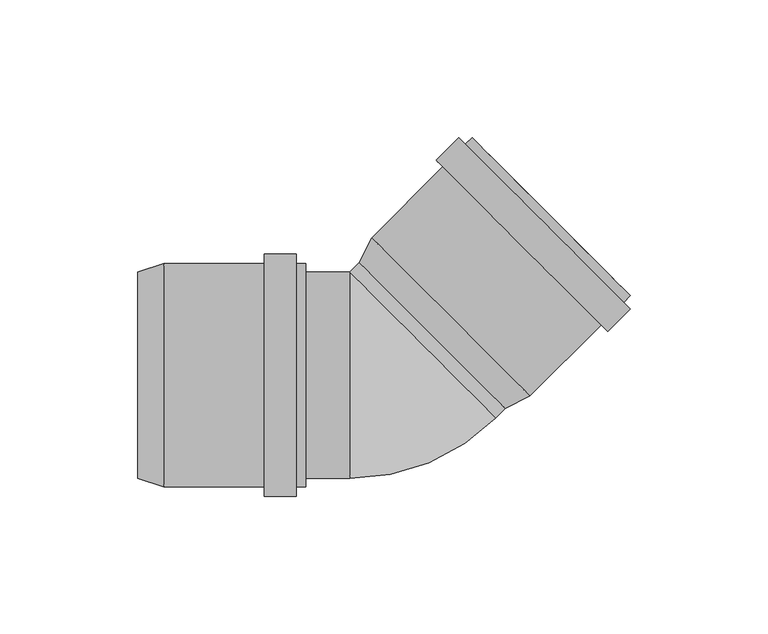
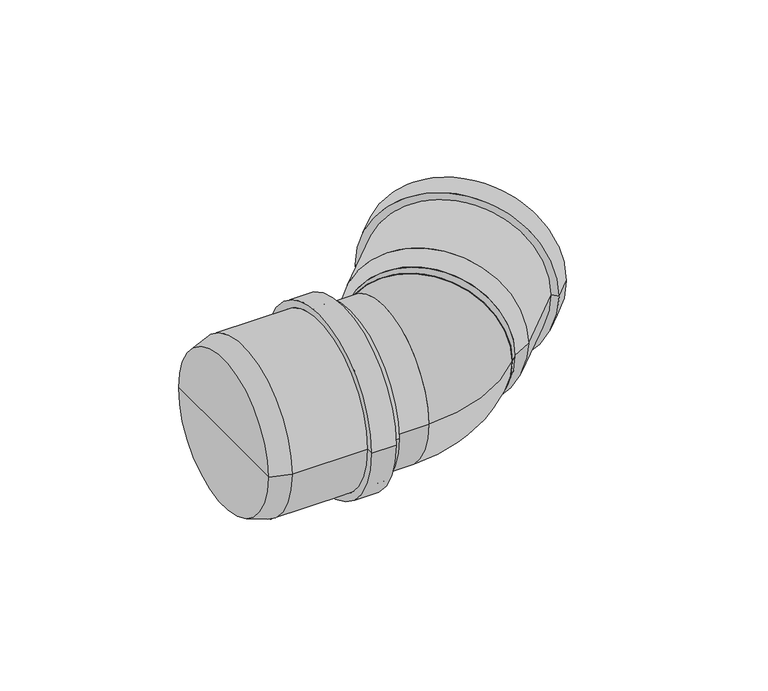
"""IFC4 building model written with IfcOpenShell, lengths in millimetres: pipe fitting geometry, pf_HTB : pf_HTB."""

from ifc_helpers import new_model, si_unit, point, frame, origin, origin_2d, place, context, project, spatial, polyline, circle_curve, ellipse_curve, trimmed, segment, composite_curve, outline, extrude, source, transform, mapped, element, save
from ifc_brep_helpers import plane_surface, cylinder_surface, revolved_surface, advanced_brep


def pipe_fitting_7da3bcd4(model_context):
    return source(origin(), model_context, "Body", "SolidModel", [
        advanced_brep(
        [(40.9414826, -12.091526, 0.0), (-12.091526, 40.9414826, 0.0), (-7.5660426, 49.8510281, 0.0), (49.8510281, -7.5660426, 0.0), (14.4249783, 14.4249783, 0.0), (86.2670273, 28.8499567, 0.0), (28.8499567, 86.2670273, 0.0), (31.0419877, 84.0749963, 0.0), (84.0749963, 31.0419877, 0.0), (83.8628642, 26.4457936, 0.0), (26.4457936, 83.8628642, 0.0), (86.2670273, 24.0416306, 0.0), (24.0416306, 86.2670273, 0.0), (78.0645886, 15.8391919, 0.0), (15.8391919, 78.0645886, 0.0), (75.6604256, 18.243355, 0.0), (18.243355, 75.6604256, 0.0), (47.6589971, -5.3740115, 0.0), (-5.3740115, 47.6589971, 0.0), (21.1424928, 21.1424928, 0.0)],
        [
            (0, 1, circle_curve(frame((14.4249783, 14.4249783, 0.0), z_axis=(0.7071067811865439, 0.7071067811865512, 0.0), x_axis=(-0.7071067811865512, 0.7071067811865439, 0.0)), 37.5)),
            (1, 2),
            (2, 3, circle_curve(frame((21.1424928, 21.1424928, 0.0), z_axis=(-0.7071067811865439, -0.7071067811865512, 0.0), x_axis=(-0.7071067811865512, 0.7071067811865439, 0.0)), 40.6)),
            (3, 0),
            (1, 0, circle_curve(frame((14.4249783, 14.4249783, 0.0), z_axis=(0.7071067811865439, 0.7071067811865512, 0.0), x_axis=(-0.7071067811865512, 0.7071067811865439, 0.0)), 37.5)),
            (3, 2, circle_curve(frame((21.1424928, 21.1424928, 0.0), z_axis=(-0.7071067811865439, -0.7071067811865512, 0.0), x_axis=(-0.7071067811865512, 0.7071067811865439, 0.0)), 40.6)),
            (4, 1),
            (0, 4),
            (5, 6, circle_curve(frame((57.558492, 57.558492, 0.0), z_axis=(0.7071067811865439, 0.7071067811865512, 0.0), x_axis=(-0.7071067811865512, 0.7071067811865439, 0.0)), 40.6)),
            (6, 7),
            (7, 8, circle_curve(frame((57.558492, 57.558492, 0.0), z_axis=(-0.7071067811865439, -0.7071067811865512, 0.0), x_axis=(-0.7071067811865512, 0.7071067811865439, 0.0)), 37.5)),
            (8, 5),
            (6, 5, circle_curve(frame((57.558492, 57.558492, 0.0), z_axis=(0.7071067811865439, 0.7071067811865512, 0.0), x_axis=(-0.7071067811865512, 0.7071067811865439, 0.0)), 40.6)),
            (8, 7, circle_curve(frame((57.558492, 57.558492, 0.0), z_axis=(-0.7071067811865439, -0.7071067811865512, 0.0), x_axis=(-0.7071067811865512, 0.7071067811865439, 0.0)), 37.5)),
            (9, 10, circle_curve(frame((55.1543289, 55.1543289, 0.0), z_axis=(0.7071067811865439, 0.7071067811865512, 0.0), x_axis=(-0.7071067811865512, 0.7071067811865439, 0.0)), 40.6)),
            (10, 6),
            (5, 9),
            (10, 9, circle_curve(frame((55.1543289, 55.1543289, 0.0), z_axis=(0.7071067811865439, 0.7071067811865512, 0.0), x_axis=(-0.7071067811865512, 0.7071067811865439, 0.0)), 40.6)),
            (11, 12, circle_curve(frame((55.1543289, 55.1543289, 0.0), z_axis=(0.7071067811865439, 0.7071067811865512, 0.0), x_axis=(-0.7071067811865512, 0.7071067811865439, 0.0)), 44.0)),
            (12, 10),
            (9, 11),
            (12, 11, circle_curve(frame((55.1543289, 55.1543289, 0.0), z_axis=(0.7071067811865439, 0.7071067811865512, 0.0), x_axis=(-0.7071067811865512, 0.7071067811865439, 0.0)), 44.0)),
            (13, 14, circle_curve(frame((46.9518903, 46.9518903, 0.0), z_axis=(0.7071067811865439, 0.7071067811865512, 0.0), x_axis=(-0.7071067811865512, 0.7071067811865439, 0.0)), 44.0)),
            (14, 12),
            (11, 13),
            (14, 13, circle_curve(frame((46.9518903, 46.9518903, 0.0), z_axis=(0.7071067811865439, 0.7071067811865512, 0.0), x_axis=(-0.7071067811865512, 0.7071067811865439, 0.0)), 44.0)),
            (15, 16, circle_curve(frame((46.9518903, 46.9518903, 0.0), z_axis=(0.7071067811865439, 0.7071067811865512, 0.0), x_axis=(-0.7071067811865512, 0.7071067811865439, 0.0)), 40.6)),
            (16, 14),
            (13, 15),
            (16, 15, circle_curve(frame((46.9518903, 46.9518903, 0.0), z_axis=(0.7071067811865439, 0.7071067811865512, 0.0), x_axis=(-0.7071067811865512, 0.7071067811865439, 0.0)), 40.6)),
            (2, 16),
            (15, 3),
            (17, 18, circle_curve(frame((21.1424928, 21.1424928, 0.0), z_axis=(0.7071067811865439, 0.7071067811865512, 0.0), x_axis=(-0.7071067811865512, 0.7071067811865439, 0.0)), 37.5)),
            (18, 19),
            (19, 17),
            (18, 17, circle_curve(frame((21.1424928, 21.1424928, 0.0), z_axis=(0.7071067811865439, 0.7071067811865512, 0.0), x_axis=(-0.7071067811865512, 0.7071067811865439, 0.0)), 37.5)),
            (7, 18),
            (17, 8),
        ],
        [
            revolved_surface(polyline([(-7.5660426, 49.8510281, 0.0), (-12.091526, 40.9414826, 0.0)]), (14.4249783, 14.4249783, 0.0), (-0.7071067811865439, -0.7071067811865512, 0.0)),
            plane_surface(frame((14.4249783, 14.4249783, 0.0), z_axis=(-0.7071067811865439, -0.7071067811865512, 0.0), x_axis=(-0.7071067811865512, 0.7071067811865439, 0.0))),
            plane_surface(frame((57.558492, 57.558492, 0.0), z_axis=(0.7071067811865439, 0.7071067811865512, 0.0), x_axis=(-0.7071067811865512, 0.7071067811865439, 0.0))),
            cylinder_surface(frame((14.4249783, 14.4249783, 0.0), z_axis=(-0.7071067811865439, -0.7071067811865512, 0.0), x_axis=(-0.7071067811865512, 0.7071067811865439, 0.0)), 40.6),
            plane_surface(frame((55.1543289, 55.1543289, 0.0), z_axis=(0.7071067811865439, 0.7071067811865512, 0.0), x_axis=(-0.7071067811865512, 0.7071067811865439, 0.0))),
            cylinder_surface(frame((14.4249783, 14.4249783, 0.0), z_axis=(-0.7071067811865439, -0.7071067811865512, 0.0), x_axis=(-0.7071067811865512, 0.7071067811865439, 0.0)), 44.0),
            plane_surface(frame((46.9518903, 46.9518903, 0.0), z_axis=(-0.7071067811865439, -0.7071067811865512, 0.0), x_axis=(-0.7071067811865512, 0.7071067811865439, 0.0))),
            plane_surface(frame((21.1424928, 21.1424928, 0.0), z_axis=(0.7071067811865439, 0.7071067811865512, 0.0), x_axis=(-0.7071067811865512, 0.7071067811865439, 0.0))),
            revolved_surface(polyline([(-5.374011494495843, 47.6589970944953, 0.0), (31.041987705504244, 84.07499629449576, 0.0)]), (14.4249783, 14.4249783, 0.0), (-0.7071067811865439, -0.7071067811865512, 0.0)),
        ],
        [
            (0, [[1, 2, 3, 4]]),
            (0, [[5, -4, 6, -2]]),
            (1, [[7, -1, 8]]),
            (1, [[-8, -5, -7]]),
            (2, [[9, 10, 11, 12]]),
            (2, [[13, -12, 14, -10]]),
            (3, [[15, 16, -9, 17]]),
            (3, [[18, -17, -13, -16]]),
            (4, [[19, 20, -15, 21]]),
            (4, [[22, -21, -18, -20]]),
            (5, [[23, 24, -19, 25]]),
            (5, [[26, -25, -22, -24]]),
            (6, [[27, 28, -23, 29]]),
            (6, [[30, -29, -26, -28]]),
            (3, [[-3, 31, -27, 32]]),
            (3, [[-6, -32, -30, -31]]),
            (7, [[33, 34, 35]]),
            (7, [[36, -35, -34]]),
            (8, [[-11, 37, -33, 38]]),
            (8, [[-14, -38, -36, -37]]),
        ],
    ),
        advanced_brep(
        [(-92.5, -37.5, 0.0), (-92.5, 37.5, 0.0), (-83.0, 40.6, 0.0), (-83.0, -40.6, 0.0), (-92.5, 0.0, 0.0), (-31.5, -40.6, 0.0), (-31.5, 40.6, 0.0), (-31.5, 37.5, 0.0), (-31.5, -37.5, 0.0), (-34.9, -40.6, 0.0), (-34.9, 40.6, 0.0), (-34.9, -44.0, 0.0), (-34.9, 44.0, 0.0), (-46.5, -44.0, 0.0), (-46.5, 44.0, 0.0), (-46.5, -40.6, 0.0), (-46.5, 40.6, 0.0), (-83.0, -37.5, 0.0), (-83.0, 37.5, 0.0), (-83.0, 0.0, 0.0)],
        [
            (0, 1, circle_curve(frame((-92.5, 0.0, 0.0), z_axis=(1.0, 0.0, 0.0), x_axis=(0.0, 1.0, 0.0)), 37.5)),
            (1, 2),
            (2, 3, circle_curve(frame((-83.0, 0.0, 0.0), z_axis=(-1.0, 0.0, 0.0), x_axis=(0.0, 1.0, 0.0)), 40.6)),
            (3, 0),
            (1, 0, circle_curve(frame((-92.5, 0.0, 0.0), z_axis=(1.0, 0.0, 0.0), x_axis=(0.0, 1.0, 0.0)), 37.5)),
            (3, 2, circle_curve(frame((-83.0, 0.0, 0.0), z_axis=(-1.0, 0.0, 0.0), x_axis=(0.0, 1.0, 0.0)), 40.6)),
            (4, 1),
            (0, 4),
            (5, 6, circle_curve(frame((-31.5, 0.0, 0.0), z_axis=(1.0, 0.0, 0.0), x_axis=(0.0, 1.0, 0.0)), 40.6)),
            (6, 7),
            (7, 8, circle_curve(frame((-31.5, 0.0, 0.0), z_axis=(-1.0, 0.0, 0.0), x_axis=(0.0, 1.0, 0.0)), 37.5)),
            (8, 5),
            (6, 5, circle_curve(frame((-31.5, 0.0, 0.0), z_axis=(1.0, 0.0, 0.0), x_axis=(0.0, 1.0, 0.0)), 40.6)),
            (8, 7, circle_curve(frame((-31.5, 0.0, 0.0), z_axis=(-1.0, 0.0, 0.0), x_axis=(0.0, 1.0, 0.0)), 37.5)),
            (9, 10, circle_curve(frame((-34.9, 0.0, 0.0), z_axis=(1.0, 0.0, 0.0), x_axis=(0.0, 1.0, 0.0)), 40.6)),
            (10, 6),
            (5, 9),
            (10, 9, circle_curve(frame((-34.9, 0.0, 0.0), z_axis=(1.0, 0.0, 0.0), x_axis=(0.0, 1.0, 0.0)), 40.6)),
            (11, 12, circle_curve(frame((-34.9, 0.0, 0.0), z_axis=(1.0, 0.0, 0.0), x_axis=(0.0, 1.0, 0.0)), 44.0)),
            (12, 10),
            (9, 11),
            (12, 11, circle_curve(frame((-34.9, 0.0, 0.0), z_axis=(1.0, 0.0, 0.0), x_axis=(0.0, 1.0, 0.0)), 44.0)),
            (13, 14, circle_curve(frame((-46.5, 0.0, 0.0), z_axis=(1.0, 0.0, 0.0), x_axis=(0.0, 1.0, 0.0)), 44.0)),
            (14, 12),
            (11, 13),
            (14, 13, circle_curve(frame((-46.5, 0.0, 0.0), z_axis=(1.0, 0.0, 0.0), x_axis=(0.0, 1.0, 0.0)), 44.0)),
            (15, 16, circle_curve(frame((-46.5, 0.0, 0.0), z_axis=(1.0, 0.0, 0.0), x_axis=(0.0, 1.0, 0.0)), 40.6)),
            (16, 14),
            (13, 15),
            (16, 15, circle_curve(frame((-46.5, 0.0, 0.0), z_axis=(1.0, 0.0, 0.0), x_axis=(0.0, 1.0, 0.0)), 40.6)),
            (2, 16),
            (15, 3),
            (17, 18, circle_curve(frame((-83.0, 0.0, 0.0), z_axis=(1.0, 0.0, 0.0), x_axis=(0.0, 1.0, 0.0)), 37.5)),
            (18, 19),
            (19, 17),
            (18, 17, circle_curve(frame((-83.0, 0.0, 0.0), z_axis=(1.0, 0.0, 0.0), x_axis=(0.0, 1.0, 0.0)), 37.5)),
            (7, 18),
            (17, 8),
        ],
        [
            revolved_surface(polyline([(-83.0, 40.6, 0.0), (-92.5, 37.5, 0.0)]), (-92.5, 0.0, 0.0), (-1.0, 0.0, 0.0)),
            plane_surface(frame((-92.5, 0.0, 0.0), z_axis=(-1.0, 0.0, 0.0), x_axis=(0.0, 1.0, 0.0))),
            plane_surface(frame((-31.5, 0.0, 0.0), z_axis=(1.0, 0.0, 0.0), x_axis=(0.0, 1.0, 0.0))),
            cylinder_surface(frame((-92.5, 0.0, 0.0), z_axis=(-1.0, 0.0, 0.0), x_axis=(0.0, 1.0, 0.0)), 40.6),
            plane_surface(frame((-34.9, 0.0, 0.0), z_axis=(1.0, 0.0, 0.0), x_axis=(0.0, 1.0, 0.0))),
            cylinder_surface(frame((-92.5, 0.0, 0.0), z_axis=(-1.0, 0.0, 0.0), x_axis=(0.0, 1.0, 0.0)), 44.0),
            plane_surface(frame((-46.5, 0.0, 0.0), z_axis=(-1.0, 0.0, 0.0), x_axis=(0.0, 1.0, 0.0))),
            plane_surface(frame((-83.0, 0.0, 0.0), z_axis=(1.0, 0.0, 0.0), x_axis=(0.0, 1.0, 0.0))),
            revolved_surface(polyline([(-83.0, 37.5, 0.0), (-31.5, 37.5, 0.0)]), (-92.5, 0.0, 0.0), (-1.0, 0.0, 0.0)),
        ],
        [
            (0, [[1, 2, 3, 4]]),
            (0, [[5, -4, 6, -2]]),
            (1, [[7, -1, 8]]),
            (1, [[-8, -5, -7]]),
            (2, [[9, 10, 11, 12]]),
            (2, [[13, -12, 14, -10]]),
            (3, [[15, 16, -9, 17]]),
            (3, [[18, -17, -13, -16]]),
            (4, [[19, 20, -15, 21]]),
            (4, [[22, -21, -18, -20]]),
            (5, [[23, 24, -19, 25]]),
            (5, [[26, -25, -22, -24]]),
            (6, [[27, 28, -23, 29]]),
            (6, [[30, -29, -26, -28]]),
            (3, [[-3, 31, -27, 32]]),
            (3, [[-6, -32, -30, -31]]),
            (7, [[33, 34, 35]]),
            (7, [[36, -35, -34]]),
            (8, [[-11, 37, -33, 38]]),
            (8, [[-14, -38, -36, -37]]),
        ],
    ),
        extrude(outline(composite_curve([segment(trimmed(circle_curve(origin_2d(), 37.5), [point((0.0, -37.5))], [point((0.0, 37.5))], False, "CARTESIAN"), True, "CONTINUOUS"), segment(trimmed(circle_curve(origin_2d(), 37.5), [point((0.0, 37.5))], [point((0.0, -37.5))], False, "CARTESIAN"), True, "CONTINUOUS")], self_intersect=False)), frame((10.9834957, 10.9834957, 0.0), z_axis=(0.7071067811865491, 0.707106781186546, 0.0), x_axis=(0.0, 0.0, 1.0)), (0.0, 0.0, 1.0), 14.3669914),
        extrude(outline(composite_curve([segment(trimmed(circle_curve(origin_2d(), 37.5), [point((-37.5, 0.0))], [point((37.5, 0.0))], False, "CARTESIAN"), True, "CONTINUOUS"), segment(trimmed(circle_curve(origin_2d(), 37.5), [point((37.5, 0.0))], [point((-37.5, 0.0))], False, "CARTESIAN"), True, "CONTINUOUS")], self_intersect=False)), frame((-83.0, 0.0, 0.0), z_axis=(1.0, 0.0, 0.0), x_axis=(0.0, 1.0, 0.0)), (0.0, 0.0, 1.0), 67.4669914),
        advanced_brep(
        [(-15.5330086, -37.5, 0.0), (-15.5330086, 37.5, 0.0), (37.5, -15.5330086, 0.0)],
        [
            (0, 1, circle_curve(frame((-15.5330086, 0.0, 0.0), z_axis=(-1.0, 0.0, 0.0), x_axis=(0.0, 1.0, 0.0)), 37.5)),
            (1, 0, circle_curve(frame((-15.5330086, 0.0, 0.0), z_axis=(-1.0, 0.0, 0.0), x_axis=(0.0, 1.0, 0.0)), 37.5)),
            (2, 1, circle_curve(frame((10.9834957, 10.9834957, 0.0), z_axis=(0.7071067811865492, 0.7071067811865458, 0.0), x_axis=(-0.7071067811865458, 0.7071067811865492, 0.0)), 37.5)),
            (1, 2, circle_curve(frame((10.9834957, 10.9834957, 0.0), z_axis=(0.7071067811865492, 0.7071067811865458, 0.0), x_axis=(-0.7071067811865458, 0.7071067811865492, 0.0)), 37.5)),
            (2, 0, circle_curve(frame((-15.5330086, 37.5, 0.0), z_axis=(0.0, 0.0, -1.0), x_axis=(0.0, -1.0, 0.0)), 75.0)),
        ],
        [
            plane_surface(frame((-15.5330086, 37.5, -14.8), z_axis=(-1.0, 0.0, 0.0), x_axis=(0.0, -1.0, 0.0))),
            plane_surface(frame((-15.5330086, 37.5, -14.8), z_axis=(0.7071067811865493, 0.7071067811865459, 0.0), x_axis=(0.7071067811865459, -0.7071067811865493, 0.0))),
            revolved_surface(trimmed(ellipse_curve(frame((-15.5330086, 0.0, 0.0), z_axis=(1.0, 0.0, 0.0), x_axis=(0.0, 1.0, 0.0)), 37.5, 37.5), [point((-15.5330086, -37.5, 0.0))], [point((-15.5330086, 37.5, 0.0))], True, "CARTESIAN"), (-15.5330086, 37.5, -14.8), (0.0, 0.0, -1.0)),
            revolved_surface(trimmed(ellipse_curve(frame((-15.5330086, 0.0, 0.0), z_axis=(1.0, 0.0, 0.0), x_axis=(0.0, 1.0, 0.0)), 37.5, 37.5), [point((-15.5330086, 37.5, 0.0))], [point((-15.5330086, -37.5, 0.0))], True, "CARTESIAN"), (-15.5330086, 37.5, -14.8), (0.0, 0.0, -1.0)),
        ],
        [
            (0, [[1, 2]]),
            (1, [[3, 4]]),
            (2, [[5, -2, -3]]),
            (3, [[-1, -5, -4]]),
        ],
    ),
    ])


if __name__ == "__main__":
    model = new_model("IFC4")
    model_context = context("Model", 3, world=origin())
    ifc_project = project(units=[si_unit("LENGTHUNIT", "METRE", prefix="MILLI")], contexts=[model_context])
    site = spatial("IfcSite", under=ifc_project)
    building = spatial("IfcBuilding", under=site)
    placement = place(None, origin())
    pipe_fitting_shape = pipe_fitting_7da3bcd4(model_context)
    element("IfcPipeFitting", 1, ObjectType="pf_HTB : pf_HTB", at=placement, inside=building, context=model_context, shape_type="MappedRepresentation", body=[
        mapped(pipe_fitting_shape, transform((0.0, 0.0, 0.0), x_axis=(1.0, 0.0, 0.0), y_axis=(0.0, 1.0, 0.0), z_axis=(0.0, 0.0, 1.0))),
    ])
    save(model, "model.ifc")
